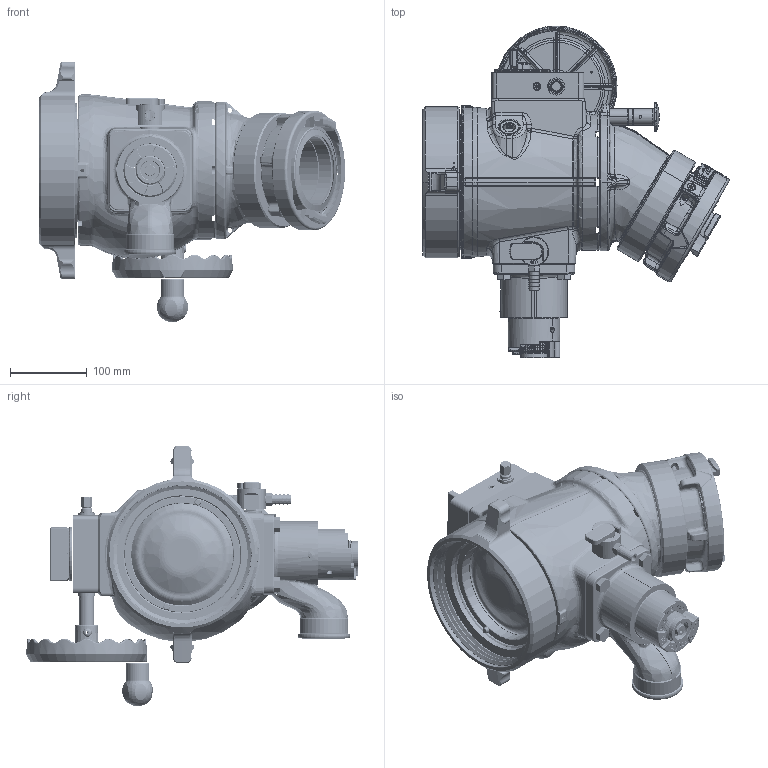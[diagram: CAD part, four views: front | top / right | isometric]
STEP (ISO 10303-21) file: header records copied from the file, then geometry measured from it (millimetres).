
FILE_DESCRIPTION (( 'STEP AP203' ), '1' );
FILE_NAME ('AX3SP-NX.STEP', '2014-10-31T20:47:55', ( '' ), ( '' ), 'SwSTEP 2.0', 'SolidWorks 2014', '' );
FILE_SCHEMA (( 'CONFIG_CONTROL_DESIGN' ));
Length unit declared in the file: inch
Products named in the file (1): AX3SP-NX
Bounding box: 399.36 x 432.92 x 339.79 mm (x, y, z)
Surface area: 700973.2 mm2 (no closed solid volume)
Topology: 0 solids, 350 shells, 2862 faces, 18171 edges, 15400 vertices
Faces by surface type: plane 952, bspline 714, cylinder 574, cone 331, torus 246, sphere 45
Entity records: 281487 total; most frequent: CARTESIAN_POINT 160347, ORIENTED_EDGE 23554, DIRECTION 19282, EDGE_CURVE 18122, VERTEX_POINT 15394, VECTOR 9394, LINE 9394, B_SPLINE_CURVE_WITH_KNOTS 5456
